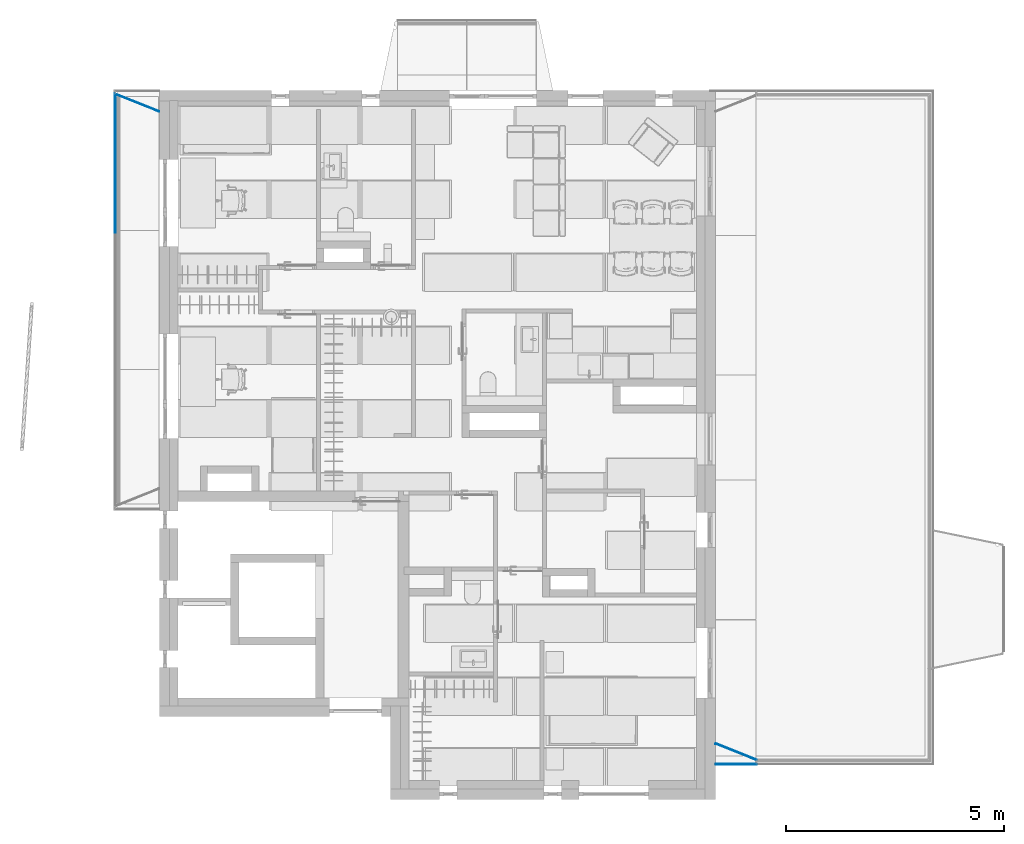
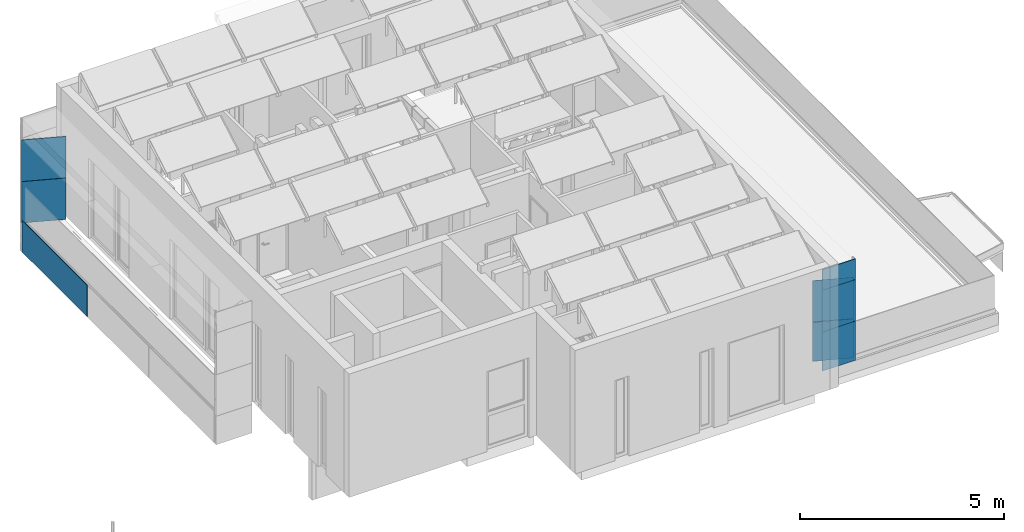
# One storey, part 9 of 57: 16 building element parts, 4 elements without a shape of their own.
"""IFC2X3 building model written with IfcOpenShell, lengths in millimetres."""

from ifc_helpers import new_model, entity, si_unit, converted_unit, direction, frame, frame_2d, origin, place, context, subcontext, project, spatial, polyline, rectangle, outline, extrude, material, type_object, element, aggregate, save


model = new_model("IFC2X3")

# Units and contexts
model_context = context("Model", 3, precision=0.01, world=origin(), true_north=direction((6.123233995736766e-17, 1.0)))
plan_context = context("Plan", 3, precision=0.01, world=origin(), true_north=direction((6.123233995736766e-17, 1.0)))
body_context = subcontext(model_context, "Body", "Model", "MODEL_VIEW")
ifc_project = project(units=[si_unit("LENGTHUNIT", "METRE", prefix="MILLI"), converted_unit("PLANEANGLEUNIT", "DEGREE", entity("IfcPlaneAngleMeasure", 0.017453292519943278), si_unit("PLANEANGLEUNIT", "RADIAN"), dimensions=[0, 0, 0, 0, 0, 0, 0]), si_unit("AREAUNIT", "SQUARE_METRE")], contexts=[model_context, plan_context])

# Site, building, storey
site_placement = place(None, origin())
site = spatial("IfcSite", under=ifc_project, at=site_placement, Name="Default", CompositionType="ELEMENT")
building_placement = place(site_placement, origin())
building = spatial("IfcBuilding", under=site, at=building_placement, CompositionType="ELEMENT")
storey_placement = place(building_placement, frame((0.0, 0.0, 12811.000000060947)))
storey = spatial("IfcBuildingStorey", under=building, at=storey_placement, Name="5K", CompositionType="ELEMENT", Elevation=12811.000000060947)

# Wall, building element parts
wall_type = type_object("IfcWallType", Name="Basic Wall:VS-komposiit", PredefinedType="STANDARD")
wall_1_placement = place(storey_placement, frame((12333.714333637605, 848.9615262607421, -20.0), z_axis=(0.0, 0.0, 1.0), x_axis=(0.9284596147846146, -0.3714333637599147, 0.0)))
wall_1 = element("IfcWall", 1, at=wall_1_placement, inside=storey, type_object=wall_type, Name="Basic Wall:VS-komposiit", ObjectType="Basic Wall:VS-komposiit")
ifc_material_1 = material(Name="_K. Välisviimistlus. Alumiinium-komposiitplaat")
building_element_part_1_placement = place(wall_1_placement, origin())
building_element_part_1 = element("IfcBuildingElementPart", 2, at=building_element_part_1_placement, material=ifc_material_1, Name="Part", context=body_context, shape_type="SweptSolid", body=[
    extrude(outline(polyline([(-189.85434701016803, -469.1880452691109), (-185.54613592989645, -469.1880452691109), (189.55716069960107, 468.4451785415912), (185.84332224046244, 469.9309119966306), (-189.85434701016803, -469.1880452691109)])), frame((505.3402838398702, 8.0, 0.0), z_axis=(0.0, 0.0, 1.0), x_axis=(-0.3714333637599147, 0.9284596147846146, 0.0)), (0.0, 0.0, 1.0), 1170.0000000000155),
])
ifc_material_2 = material(Name="_K. Õhk. Roov. Fassaadikatte alusroov. Horisontaalne. 25 mm")
building_element_part_2_placement = place(wall_1_placement, origin())
building_element_part_2 = element("IfcBuildingElementPart", 3, at=building_element_part_2_placement, material=ifc_material_2, Name="Part", context=body_context, shape_type="SweptSolid", body=[
    extrude(outline(polyline([(-196.2595227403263, -469.0452120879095), (-179.02667841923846, -469.0452120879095), (195.0707774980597, 466.0737451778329), (180.21542366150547, 472.0166789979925), (-196.2595227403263, -469.0452120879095)])), frame((505.1864449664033, -2.0, 0.0), z_axis=(0.0, 0.0, 1.0), x_axis=(-0.3714333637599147, 0.9284596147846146, 0.0)), (0.0, 0.0, 1.0), 1170.0000000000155),
])
building_element_part_3_placement = place(wall_1_placement, origin())
building_element_part_3 = element("IfcBuildingElementPart", 4, at=building_element_part_3_placement, material=ifc_material_2, Name="Part", context=body_context, shape_type="SweptSolid", body=[
    extrude(outline(polyline([(-196.25952274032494, -469.0452120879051), (-179.02667841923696, -469.0452120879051), (195.07077749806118, 466.0737451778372), (180.2154236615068, 472.01667899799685), (-196.25952274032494, -469.0452120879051)])), frame((505.18644496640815, -2.0, 1175.0), z_axis=(0.0, 0.0, 1.0), x_axis=(-0.3714333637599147, 0.9284596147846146, 0.0)), (0.0, 0.0, 1.0), 1240.0000000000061),
])
building_element_part_4_placement = place(wall_1_placement, origin())
building_element_part_4 = element("IfcBuildingElementPart", 5, at=building_element_part_4_placement, material=ifc_material_1, Name="Part", context=body_context, shape_type="SweptSolid", body=[
    extrude(outline(polyline([(-189.85434701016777, -469.1880452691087), (-185.5461359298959, -469.1880452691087), (189.55716069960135, 468.44517854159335), (185.84332224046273, 469.93091199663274), (-189.85434701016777, -469.1880452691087)])), frame((505.3402838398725, 8.0, 1175.0), z_axis=(0.0, 0.0, 1.0), x_axis=(-0.3714333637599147, 0.9284596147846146, 0.0)), (0.0, 0.0, 1.0), 1240.0000000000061),
])
aggregate(wall_1, [building_element_part_1, building_element_part_2, building_element_part_3, building_element_part_4])

wall_2_placement = place(storey_placement, frame((13275.061891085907, 378.00341155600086, -20.0), z_axis=(0.0, 0.0, 1.0), x_axis=(-1.0, 0.0, 0.0)))
wall_2 = element("IfcWall", 6, at=wall_2_placement, inside=storey, type_object=wall_type, Name="Basic Wall:VS-komposiit", ObjectType="Basic Wall:VS-komposiit")
building_element_part_5_placement = place(wall_2_placement, origin())
building_element_part_5 = element("IfcBuildingElementPart", 7, at=building_element_part_5_placement, material=ifc_material_1, Name="Part", context=body_context, shape_type="SweptSolid", body=[
    extrude(rectangle(XDim=4.000000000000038, YDim=940.0618910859, at=frame_2d((3.3861802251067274e-14, -1.0800249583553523e-12), x_axis=(1.0, 0.0))), frame((470.03094554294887, 8.0, 0.0), z_axis=(0.0, 0.0, 1.0), x_axis=(0.0, 1.0, 0.0)), (0.0, 0.0, 1.0), 1170.0000000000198),
])
building_element_part_6_placement = place(wall_2_placement, origin())
building_element_part_6 = element("IfcBuildingElementPart", 8, at=building_element_part_6_placement, material=ifc_material_2, Name="Part", context=body_context, shape_type="SweptSolid", body=[
    extrude(rectangle(XDim=15.99999999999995, YDim=936.0618910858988, at=frame_2d((0.0, 2.1600499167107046e-12), x_axis=(1.0, 0.0))), frame((472.0309455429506, -2.0, 0.0), z_axis=(0.0, 0.0, 1.0), x_axis=(0.0, 1.0, 0.0)), (0.0, 0.0, 1.0), 1170.0000000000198),
])
building_element_part_7_placement = place(wall_2_placement, origin())
building_element_part_7 = element("IfcBuildingElementPart", 9, at=building_element_part_7_placement, material=ifc_material_2, Name="Part", context=body_context, shape_type="SweptSolid", body=[
    extrude(rectangle(XDim=15.99999999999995, YDim=936.0618910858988, at=frame_2d((0.0, 2.1600499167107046e-12), x_axis=(1.0, 0.0))), frame((472.0309455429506, -2.0, 2420.0), z_axis=(0.0, 0.0, 1.0), x_axis=(0.0, 1.0, 0.0)), (0.0, 0.0, 1.0), 614.9999999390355),
])
building_element_part_8_placement = place(wall_2_placement, origin())
building_element_part_8 = element("IfcBuildingElementPart", 10, at=building_element_part_8_placement, material=ifc_material_2, Name="Part", context=body_context, shape_type="SweptSolid", body=[
    extrude(rectangle(XDim=15.99999999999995, YDim=936.0618910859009, at=frame_2d((0.0, 1.0800249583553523e-12), x_axis=(1.0, 0.0))), frame((472.0309455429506, -2.0, 1175.0), z_axis=(0.0, 0.0, 1.0), x_axis=(0.0, 1.0, 0.0)), (0.0, 0.0, 1.0), 1240.0000000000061),
])
building_element_part_9_placement = place(wall_2_placement, origin())
building_element_part_9 = element("IfcBuildingElementPart", 11, at=building_element_part_9_placement, material=ifc_material_1, Name="Part", context=body_context, shape_type="SweptSolid", body=[
    extrude(rectangle(XDim=4.000000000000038, YDim=940.0618910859, at=frame_2d((3.3861802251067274e-14, -1.0800249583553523e-12), x_axis=(1.0, 0.0))), frame((470.03094554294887, 8.0, 2420.0), z_axis=(0.0, 0.0, 1.0), x_axis=(0.0, 1.0, 0.0)), (0.0, 0.0, 1.0), 614.9999999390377),
])
building_element_part_10_placement = place(wall_2_placement, origin())
building_element_part_10 = element("IfcBuildingElementPart", 12, at=building_element_part_10_placement, material=ifc_material_1, Name="Part", context=body_context, shape_type="SweptSolid", body=[
    extrude(rectangle(XDim=4.000000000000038, YDim=940.0618910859, at=frame_2d((3.3861802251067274e-14, 2.1600499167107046e-12), x_axis=(1.0, 0.0))), frame((470.03094554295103, 8.0, 1175.0), z_axis=(0.0, 0.0, 1.0), x_axis=(0.0, 1.0, 0.0)), (0.0, 0.0, 1.0), 1240.0000000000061),
])
aggregate(wall_2, [building_element_part_5, building_element_part_6, building_element_part_7, building_element_part_8, building_element_part_9, building_element_part_10])

wall_3_placement = place(storey_placement, frame((-433.71433363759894, 15351.038473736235, -946.0), z_axis=(0.0, 0.0, 1.0), x_axis=(-0.9284596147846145, 0.37143336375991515, 0.0)))
wall_3 = element("IfcWall", 13, at=wall_3_placement, inside=storey, type_object=wall_type, Name="Basic Wall:VS-komposiit", ObjectType="Basic Wall:VS-komposiit")
building_element_part_11_placement = place(wall_3_placement, origin())
building_element_part_11 = element("IfcBuildingElementPart", 14, at=building_element_part_11_placement, material=ifc_material_2, Name="Part", context=body_context, shape_type="SweptSolid", body=[
    extrude(outline(polyline([(-211.449169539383, -507.0142665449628), (-194.21632521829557, -507.0142665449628), (210.26042429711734, 504.0427996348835), (195.40507046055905, 509.9857334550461), (-211.449169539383, -507.0142665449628)])), frame((546.0811202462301, -2.0, 856.0), z_axis=(0.0, 0.0, 1.0), x_axis=(-0.37143336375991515, 0.9284596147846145, 0.0)), (0.0, 0.0, 1.0), 1240.000000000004),
])
building_element_part_12_placement = place(wall_3_placement, origin())
building_element_part_12 = element("IfcBuildingElementPart", 15, at=building_element_part_12_placement, material=ifc_material_2, Name="Part", context=body_context, shape_type="SweptSolid", body=[
    extrude(outline(polyline([(-211.449169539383, -507.01426654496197), (-194.21632521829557, -507.01426654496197), (210.26042429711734, 504.0427996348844), (195.40507046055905, 509.98573345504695), (-211.449169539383, -507.01426654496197)])), frame((546.0811202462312, -2.0, 2101.0), z_axis=(0.0, 0.0, 1.0), x_axis=(-0.37143336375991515, 0.9284596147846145, 0.0)), (0.0, 0.0, 1.0), 1240.000000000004),
])
building_element_part_13_placement = place(wall_3_placement, origin())
building_element_part_13 = element("IfcBuildingElementPart", 16, at=building_element_part_13_placement, material=ifc_material_1, Name="Part", context=body_context, shape_type="SweptSolid", body=[
    extrude(outline(polyline([(-205.0439938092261, -507.15709972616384), (-200.7357827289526, -507.15709972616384), (204.7468074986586, 506.4142329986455), (201.03296903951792, 507.8999664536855), (-205.0439938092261, -507.15709972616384)])), frame((546.2349591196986, 8.0, 856.0), z_axis=(0.0, 0.0, 1.0), x_axis=(-0.37143336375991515, 0.9284596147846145, 0.0)), (0.0, 0.0, 1.0), 1240.000000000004),
])
building_element_part_14_placement = place(wall_3_placement, origin())
building_element_part_14 = element("IfcBuildingElementPart", 17, at=building_element_part_14_placement, material=ifc_material_1, Name="Part", context=body_context, shape_type="SweptSolid", body=[
    extrude(outline(polyline([(-205.0439938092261, -507.15709972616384), (-200.7357827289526, -507.15709972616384), (204.7468074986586, 506.4142329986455), (201.03296903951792, 507.8999664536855), (-205.0439938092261, -507.15709972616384)])), frame((546.2349591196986, 8.0, 2101.0), z_axis=(0.0, 0.0, 1.0), x_axis=(-0.37143336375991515, 0.9284596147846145, 0.0)), (0.0, 0.0, 1.0), 1240.000000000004),
])
aggregate(wall_3, [building_element_part_11, building_element_part_12, building_element_part_13, building_element_part_14])

wall_4_placement = place(storey_placement, frame((-1441.882865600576, 15734.235401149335, -946.0), z_axis=(0.0, 0.0, 1.0), x_axis=(0.0, -1.0, 0.0)))
wall_4 = element("IfcWall", 18, at=wall_4_placement, inside=storey, type_object=wall_type, Name="Basic Wall:VS-komposiit", ObjectType="Basic Wall:VS-komposiit")
building_element_part_15_placement = place(wall_4_placement, origin())
building_element_part_15 = element("IfcBuildingElementPart", 19, at=building_element_part_15_placement, material=ifc_material_2, Name="Part", context=body_context, shape_type="SweptSolid", body=[
    extrude(rectangle(XDim=3199.9999999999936, YDim=15.999999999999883, at=frame_2d((1.1368683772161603e-12, -1.354472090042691e-13), x_axis=(1.0, 0.0))), frame((1600.0, 2.0, 0.0)), (0.0, 0.0, 1.0), 945.9999999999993),
])
building_element_part_16_placement = place(wall_4_placement, origin())
building_element_part_16 = element("IfcBuildingElementPart", 20, at=building_element_part_16_placement, material=ifc_material_1, Name="Part", context=body_context, shape_type="SweptSolid", body=[
    extrude(rectangle(XDim=3199.9999999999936, YDim=4.000000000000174, at=frame_2d((-1.1368683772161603e-12, -1.354472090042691e-13), x_axis=(1.0, 0.0))), frame((1600.0, -8.0, 0.0)), (0.0, 0.0, 1.0), 945.9999999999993),
])
aggregate(wall_4, [building_element_part_15, building_element_part_16])

save(model, "model.ifc")
